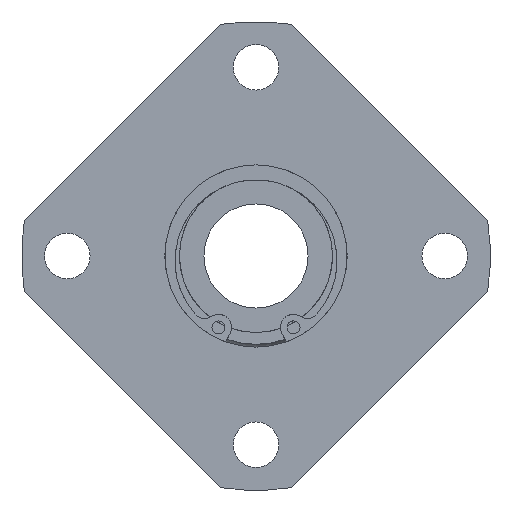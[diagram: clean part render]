
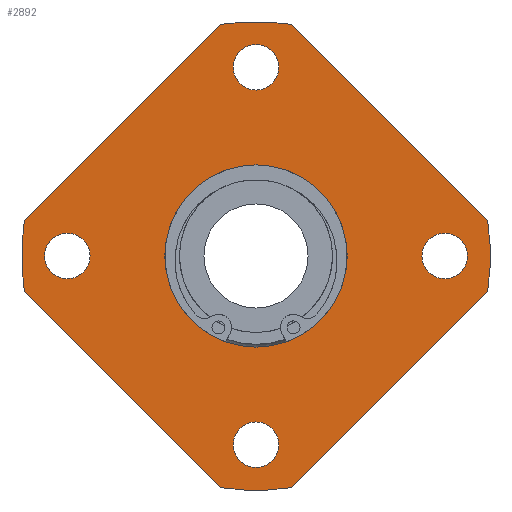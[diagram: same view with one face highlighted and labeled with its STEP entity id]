
A CAD part, left-side view. The second image highlights one B-rep face of the part: STEP entity #2892.
In plain terms, the highlighted planar face has unit normal (-1, 0, 0).
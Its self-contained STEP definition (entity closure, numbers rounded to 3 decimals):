
#2515=CARTESIAN_POINT('',(0.0,0.0,14.));
#2516=VERTEX_POINT('',#2515);
#2517=CARTESIAN_POINT('',(0.0,0.0,0.0));
#2518=DIRECTION('',(-1.0,0.0,0.0));
#2519=DIRECTION('',(0.0,0.0,1.0));
#2520=AXIS2_PLACEMENT_3D('',#2517,#2518,#2519);
#2521=CIRCLE('',#2520,14.);
#2522=EDGE_CURVE('',#2516,#2516,#2521,.T.);
#2607=CARTESIAN_POINT('',(0.0,-35.589,-5.423));
#2608=VERTEX_POINT('',#2607);
#2615=CARTESIAN_POINT('',(0.0,-5.423,-35.589));
#2616=VERTEX_POINT('',#2615);
#2617=CARTESIAN_POINT('',(0.0,-5.423,-35.589));
#2618=DIRECTION('',(0.0,-0.707,0.707));
#2619=VECTOR('',#2618,42.661);
#2620=LINE('',#2617,#2619);
#2621=EDGE_CURVE('',#2616,#2608,#2620,.T.);
#2647=CARTESIAN_POINT('',(0.0,35.589,5.423));
#2648=VERTEX_POINT('',#2647);
#2655=CARTESIAN_POINT('',(0.0,5.423,35.589));
#2656=VERTEX_POINT('',#2655);
#2657=CARTESIAN_POINT('',(0.0,5.423,35.589));
#2658=DIRECTION('',(0.0,0.707,-0.707));
#2659=VECTOR('',#2658,42.661);
#2660=LINE('',#2657,#2659);
#2661=EDGE_CURVE('',#2656,#2648,#2660,.T.);
#2687=CARTESIAN_POINT('',(0.0,5.423,-35.589));
#2688=VERTEX_POINT('',#2687);
#2695=CARTESIAN_POINT('',(0.0,35.589,-5.423));
#2696=VERTEX_POINT('',#2695);
#2697=CARTESIAN_POINT('',(0.0,35.589,-5.423));
#2698=DIRECTION('',(0.0,-0.707,-0.707));
#2699=VECTOR('',#2698,42.661);
#2700=LINE('',#2697,#2699);
#2701=EDGE_CURVE('',#2696,#2688,#2700,.T.);
#2727=CARTESIAN_POINT('',(0.0,-5.423,35.589));
#2728=VERTEX_POINT('',#2727);
#2735=CARTESIAN_POINT('',(0.0,-35.589,5.423));
#2736=VERTEX_POINT('',#2735);
#2737=CARTESIAN_POINT('',(0.0,-35.589,5.423));
#2738=DIRECTION('',(0.0,0.707,0.707));
#2739=VECTOR('',#2738,42.661);
#2740=LINE('',#2737,#2739);
#2741=EDGE_CURVE('',#2736,#2728,#2740,.T.);
#2766=CARTESIAN_POINT('',(0.0,0.0,0.0));
#2767=DIRECTION('',(-1.0,0.0,0.0));
#2768=DIRECTION('',(0.0,0.0,1.0));
#2769=AXIS2_PLACEMENT_3D('',#2766,#2767,#2768);
#2770=CIRCLE('',#2769,36.0);
#2771=EDGE_CURVE('',#2608,#2736,#2770,.T.);
#2790=CARTESIAN_POINT('',(0.0,0.0,0.0));
#2791=DIRECTION('',(-1.0,0.0,0.0));
#2792=DIRECTION('',(0.0,0.0,1.0));
#2793=AXIS2_PLACEMENT_3D('',#2790,#2791,#2792);
#2794=CIRCLE('',#2793,36.0);
#2795=EDGE_CURVE('',#2648,#2696,#2794,.T.);
#2806=CARTESIAN_POINT('',(0.0,0.0,0.0));
#2807=DIRECTION('',(-1.0,0.0,0.0));
#2808=DIRECTION('',(0.0,0.0,1.0));
#2809=AXIS2_PLACEMENT_3D('',#2806,#2807,#2808);
#2810=CIRCLE('',#2809,36.0);
#2811=EDGE_CURVE('',#2728,#2656,#2810,.T.);
#2824=CARTESIAN_POINT('',(0.0,0.0,25.0));
#2825=DIRECTION('',(-1.0,0.0,0.0));
#2826=DIRECTION('',(0.0,0.0,1.0));
#2827=AXIS2_PLACEMENT_3D('',#2824,#2825,#2826);
#2828=PLANE('',#2827);
#2829=ORIENTED_EDGE('',*,*,#2621,.T.);
#2830=ORIENTED_EDGE('',*,*,#2771,.T.);
#2831=ORIENTED_EDGE('',*,*,#2741,.T.);
#2832=ORIENTED_EDGE('',*,*,#2811,.T.);
#2833=ORIENTED_EDGE('',*,*,#2661,.T.);
#2834=ORIENTED_EDGE('',*,*,#2795,.T.);
#2835=ORIENTED_EDGE('',*,*,#2701,.T.);
#2836=CARTESIAN_POINT('',(0.0,0.0,0.0));
#2837=DIRECTION('',(-1.0,0.0,0.0));
#2838=DIRECTION('',(0.0,0.0,1.0));
#2839=AXIS2_PLACEMENT_3D('',#2836,#2837,#2838);
#2840=CIRCLE('',#2839,36.0);
#2841=EDGE_CURVE('',#2688,#2616,#2840,.T.);
#2842=ORIENTED_EDGE('',*,*,#2841,.T.);
#2843=EDGE_LOOP('',(#2829,#2830,#2831,#2832,#2833,#2834,#2835,#2842));
#2844=FACE_OUTER_BOUND('',#2843,.T.);
#2845=ORIENTED_EDGE('',*,*,#2522,.F.);
#2846=EDGE_LOOP('',(#2845));
#2847=FACE_BOUND('',#2846,.T.);
#2848=CARTESIAN_POINT('',(0.0,3.5,29.));
#2849=VERTEX_POINT('',#2848);
#2850=CARTESIAN_POINT('',(0.0,0.,29.));
#2851=DIRECTION('',(1.0,0.0,0.0));
#2852=DIRECTION('',(0.0,1.0,0.0));
#2853=AXIS2_PLACEMENT_3D('',#2850,#2851,#2852);
#2854=CIRCLE('',#2853,3.5);
#2855=EDGE_CURVE('',#2849,#2849,#2854,.T.);
#2856=ORIENTED_EDGE('',*,*,#2855,.T.);
#2857=EDGE_LOOP('',(#2856));
#2858=FACE_BOUND('',#2857,.T.);
#2859=CARTESIAN_POINT('',(0.0,-29.,3.5));
#2860=VERTEX_POINT('',#2859);
#2861=CARTESIAN_POINT('',(0.0,-29.,0.));
#2862=DIRECTION('',(1.0,0.0,0.0));
#2863=DIRECTION('',(0.0,0.0,1.0));
#2864=AXIS2_PLACEMENT_3D('',#2861,#2862,#2863);
#2865=CIRCLE('',#2864,3.5);
#2866=EDGE_CURVE('',#2860,#2860,#2865,.T.);
#2867=ORIENTED_EDGE('',*,*,#2866,.T.);
#2868=EDGE_LOOP('',(#2867));
#2869=FACE_BOUND('',#2868,.T.);
#2870=CARTESIAN_POINT('',(0.0,-3.5,-29.));
#2871=VERTEX_POINT('',#2870);
#2872=CARTESIAN_POINT('',(0.0,0.,-29.));
#2873=DIRECTION('',(1.0,0.0,0.0));
#2874=DIRECTION('',(0.0,-1.0,0.0));
#2875=AXIS2_PLACEMENT_3D('',#2872,#2873,#2874);
#2876=CIRCLE('',#2875,3.5);
#2877=EDGE_CURVE('',#2871,#2871,#2876,.T.);
#2878=ORIENTED_EDGE('',*,*,#2877,.T.);
#2879=EDGE_LOOP('',(#2878));
#2880=FACE_BOUND('',#2879,.T.);
#2881=CARTESIAN_POINT('',(0.0,29.,-3.5));
#2882=VERTEX_POINT('',#2881);
#2883=CARTESIAN_POINT('',(0.0,29.,0.));
#2884=DIRECTION('',(1.0,0.0,0.0));
#2885=DIRECTION('',(0.0,0.0,-1.0));
#2886=AXIS2_PLACEMENT_3D('',#2883,#2884,#2885);
#2887=CIRCLE('',#2886,3.5);
#2888=EDGE_CURVE('',#2882,#2882,#2887,.T.);
#2889=ORIENTED_EDGE('',*,*,#2888,.T.);
#2890=EDGE_LOOP('',(#2889));
#2891=FACE_BOUND('',#2890,.T.);
#2892=ADVANCED_FACE('',(#2844,#2847,#2858,#2869,#2880,#2891),#2828,.T.);
